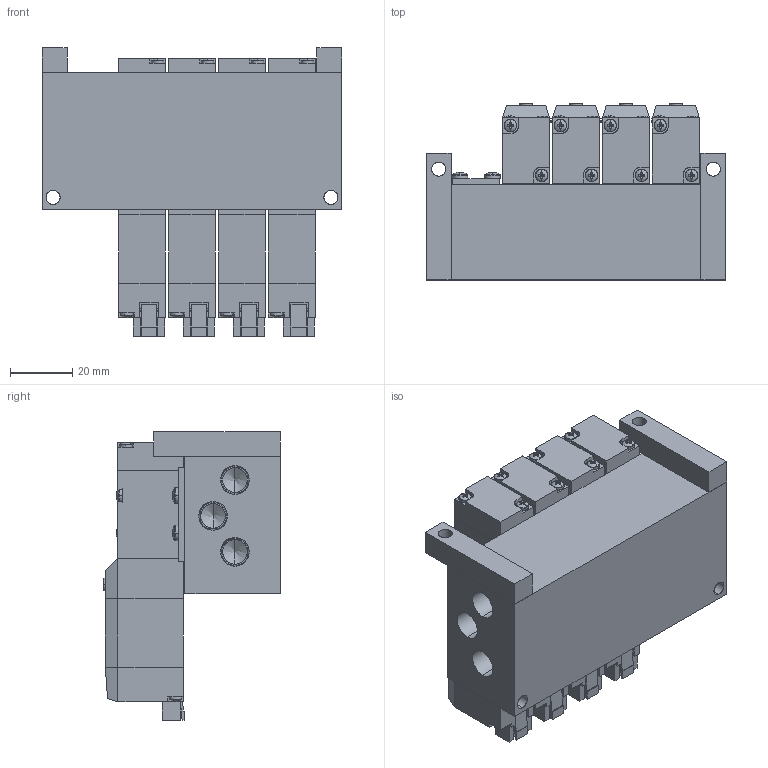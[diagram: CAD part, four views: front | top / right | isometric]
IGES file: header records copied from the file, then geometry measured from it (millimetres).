
Start section: SolidWorks IGES file using analytic representation for surfaces
Global section: file name: D:\Custom\3D繪製\PC\PC5\MFS#-PC5-01-B-SP.IGS,1; native system: 5HSolidWorks 2014; preprocessor: SolidWorks 2014; author: Chieh_Lu; date: 150729.231349; units: millimetre
Bounding box: 96 x 56.5 x 92.5 mm (x, y, z)
Surface area: 77446.4 mm2 (no closed solid volume)
Topology: 0 solids, 0 shells, 2246 faces, 19767 edges, 19659 vertices
Faces by surface type: bspline 1452, revolution 794
